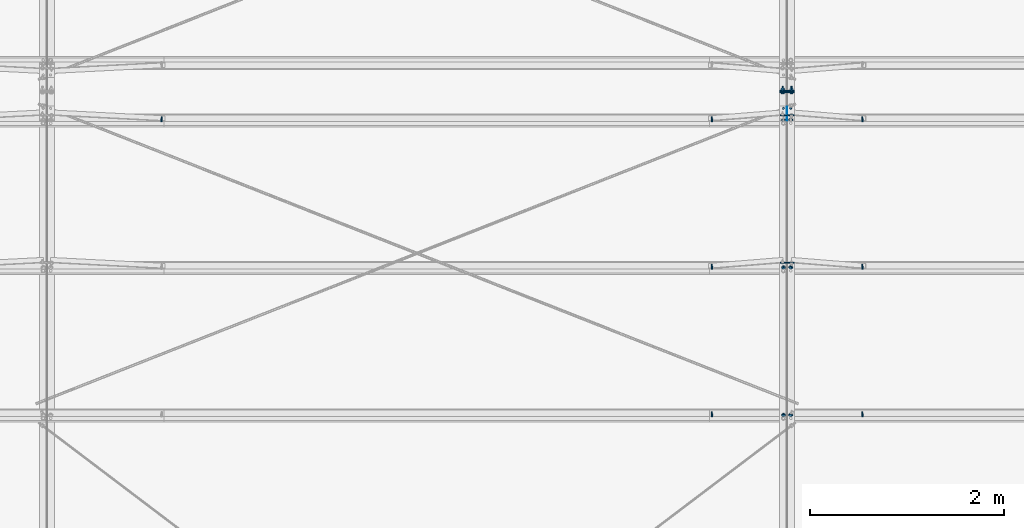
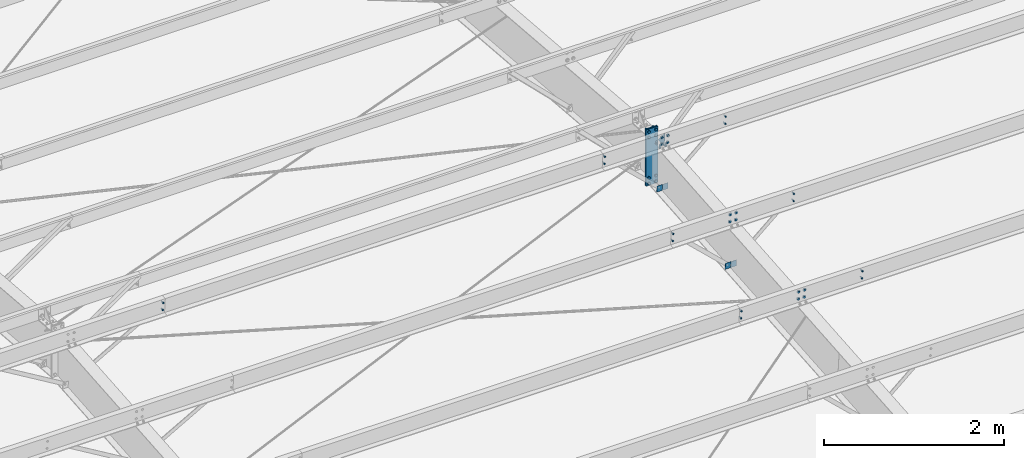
# One storey, part 72 of 185: 16 mechanical fasteners, 7 discrete accessories, 9 elements without a shape of their own.
"""IFC2X3 building model written with IfcOpenShell, lengths in millimetres."""

from ifc_helpers import new_model, si_unit, frame, origin_with_axes, origin_2d_with_axis, place, context, subcontext, project, spatial, polyline, rectangle, circle, outline, extrude, source, transform, mapped, material, type_object, element, aggregate, save


model = new_model("IFC2X3")

# Units and contexts
model_context = context("Model", 3, precision=1e-05, world=origin_with_axes())
body_context = subcontext(model_context, "Body", "Model", "MODEL_VIEW")
ifc_project = project(units=[si_unit("LENGTHUNIT", "METRE", prefix="MILLI"), si_unit("AREAUNIT", "SQUARE_METRE"), si_unit("VOLUMEUNIT", "CUBIC_METRE"), si_unit("MASSUNIT", "GRAM", prefix="KILO"), si_unit("TIMEUNIT", "SECOND"), si_unit("PLANEANGLEUNIT", "RADIAN"), si_unit("SOLIDANGLEUNIT", "STERADIAN"), si_unit("THERMODYNAMICTEMPERATUREUNIT", "DEGREE_CELSIUS"), si_unit("LUMINOUSINTENSITYUNIT", "LUMEN")], contexts=[model_context])

# Site, building, storey
site_placement = place(None, origin_with_axes())
site = spatial("IfcSite", under=ifc_project, at=site_placement, Name="Undefined", CompositionType="ELEMENT")
building_placement = place(site_placement, origin_with_axes())
building = spatial("IfcBuilding", under=site, at=building_placement, Name="Undefined", CompositionType="ELEMENT")
storey_placement = place(building_placement, origin_with_axes())
storey = spatial("IfcBuildingStorey", under=building, at=storey_placement, Name="Undefined", CompositionType="ELEMENT", Elevation=0.0)

# Assembly, mechanical fastener
assembly_1_placement = place(storey_placement, origin_with_axes())
assembly_1 = element("IfcElementAssembly", 1, at=assembly_1_placement, inside=storey, Name="Steel Assembly", AssemblyPlace="NOTDEFINED", PredefinedType="RIGID_FRAME")
ifc_material_1 = material(Name="Undefined")
discrete_accessory_type_1 = type_object("IfcDiscreteAccessoryType", Name="Bolt assembly")
shared_shape_1 = source(origin_with_axes(), body_context, "Body", "SweptSolid", [
    extrude(circle(Radius=7.14374971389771, at=origin_2d_with_axis()), frame((0.0, -1.59000001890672, 0.0), z_axis=(0.0, 1.0, 0.0), x_axis=(1.0, 0.0, 0.0)), (0.0, 0.0, 1.0), 3.3),
    extrude(circle(Radius=13.4937496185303, at=origin_2d_with_axis()), frame((0.0, -5.5587500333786, 0.0), z_axis=(0.0, 1.0, 0.0), x_axis=(1.0, 0.0, 0.0)), (0.0, 0.0, 1.0), 4.0),
    extrude(circle(Radius=22.2250003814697, at=origin_2d_with_axis()), frame((0.0, 1.5900000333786, 0.0), z_axis=(0.0, 1.0, 0.0), x_axis=(1.0, 0.0, 0.0)), (0.0, 0.0, 1.0), 7.9),
    extrude(outline(polyline([(12.8316099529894, 0.0), (6.4158049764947, 11.1125001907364), (-6.4158049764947, 11.1125001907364), (-12.8316099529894, 0.0), (-6.4158049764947, -11.1125001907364), (6.4158049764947, -11.1125001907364), (12.8316099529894, 0.0)])), frame((0.0, 9.5275000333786, 0.0), z_axis=(0.0, 1.0, 0.0), x_axis=(1.0, 0.0, 0.0)), (0.0, 0.0, 1.0), 12.3),
])
mechanical_fastener_1_placement = place(assembly_1_placement, frame((14897.1, 15702.4719876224, 7353.56325123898), z_axis=(1.0, 0.0, 0.0), x_axis=(0.0, 0.0830454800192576, -0.996545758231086)))
mechanical_fastener_1 = element("IfcMechanicalFastener", 2, at=mechanical_fastener_1_placement, type_object=discrete_accessory_type_1, material=ifc_material_1, Name="Bolt assembly", NominalDiameter=12.6999998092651, NominalLength=38.0999984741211, context=body_context, shape_type="MappedRepresentation", body=[
    mapped(shared_shape_1, transform((0.0, 0.0, 0.0))),
    mapped(shared_shape_1, transform((101.599998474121, 0.0, 0.0))),
])

assembly_2_placement = place(storey_placement, origin_with_axes())
assembly_2 = element("IfcElementAssembly", 3, at=assembly_2_placement, inside=storey, Name="Steel Assembly", AssemblyPlace="NOTDEFINED", PredefinedType="RIGID_FRAME")
mechanical_fastener_2_placement = place(assembly_2_placement, frame((14820.9, 15702.4719876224, 7353.56325123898), z_axis=(1.0, 0.0, 0.0), x_axis=(0.0, 0.0830454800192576, -0.996545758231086)))
mechanical_fastener_2 = element("IfcMechanicalFastener", 4, at=mechanical_fastener_2_placement, type_object=discrete_accessory_type_1, material=ifc_material_1, Name="Bolt assembly", NominalDiameter=12.6999998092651, NominalLength=38.0999984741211, context=body_context, shape_type="MappedRepresentation", body=[
    mapped(shared_shape_1, transform((0.0, 0.0, 0.0))),
    mapped(shared_shape_1, transform((101.599998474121, 0.0, 0.0))),
])

assembly_3_placement = place(storey_placement, origin_with_axes())
assembly_3 = element("IfcElementAssembly", 5, at=assembly_3_placement, inside=storey, Name="Steel Assembly", AssemblyPlace="NOTDEFINED", PredefinedType="RIGID_FRAME")
mechanical_fastener_3_placement = place(assembly_3_placement, frame((14897.1, 14183.7362520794, 7227.00193968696), z_axis=(1.0, 0.0, 0.0), x_axis=(0.0, 0.0830454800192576, -0.996545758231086)))
mechanical_fastener_3 = element("IfcMechanicalFastener", 6, at=mechanical_fastener_3_placement, type_object=discrete_accessory_type_1, material=ifc_material_1, Name="Bolt assembly", NominalDiameter=12.6999998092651, NominalLength=38.0999984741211, context=body_context, shape_type="MappedRepresentation", body=[
    mapped(shared_shape_1, transform((0.0, 0.0, 0.0))),
    mapped(shared_shape_1, transform((101.599998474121, 0.0, 0.0))),
])
aggregate(assembly_3, [mechanical_fastener_3])

assembly_4_placement = place(storey_placement, origin_with_axes())
assembly_4 = element("IfcElementAssembly", 7, at=assembly_4_placement, inside=storey, Name="Steel Assembly", AssemblyPlace="NOTDEFINED", PredefinedType="RIGID_FRAME")
mechanical_fastener_4_placement = place(assembly_4_placement, frame((14820.9, 14183.7362520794, 7227.00193968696), z_axis=(1.0, 0.0, 0.0), x_axis=(0.0, 0.0830454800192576, -0.996545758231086)))
mechanical_fastener_4 = element("IfcMechanicalFastener", 8, at=mechanical_fastener_4_placement, type_object=discrete_accessory_type_1, material=ifc_material_1, Name="Bolt assembly", NominalDiameter=12.6999998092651, NominalLength=38.0999984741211, context=body_context, shape_type="MappedRepresentation", body=[
    mapped(shared_shape_1, transform((0.0, 0.0, 0.0))),
    mapped(shared_shape_1, transform((101.599998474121, 0.0, 0.0))),
])

assembly_5_placement = place(storey_placement, origin_with_axes())
assembly_5 = element("IfcElementAssembly", 9, at=assembly_5_placement, inside=storey, Name="Steel Assembly", AssemblyPlace="NOTDEFINED", PredefinedType="RIGID_FRAME")
mechanical_fastener_5_placement = place(assembly_5_placement, frame((14897.1, 12665.0005165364, 7100.44062813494), z_axis=(1.0, 0.0, 0.0), x_axis=(0.0, 0.0830454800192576, -0.996545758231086)))
mechanical_fastener_5 = element("IfcMechanicalFastener", 10, at=mechanical_fastener_5_placement, type_object=discrete_accessory_type_1, material=ifc_material_1, Name="Bolt assembly", NominalDiameter=12.6999998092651, NominalLength=38.0999984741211, context=body_context, shape_type="MappedRepresentation", body=[
    mapped(shared_shape_1, transform((0.0, 0.0, 0.0))),
    mapped(shared_shape_1, transform((101.599998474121, 0.0, 0.0))),
])
aggregate(assembly_5, [mechanical_fastener_5])

assembly_6_placement = place(storey_placement, origin_with_axes())
assembly_6 = element("IfcElementAssembly", 11, at=assembly_6_placement, inside=storey, Name="Steel Assembly", AssemblyPlace="NOTDEFINED", PredefinedType="RIGID_FRAME")
mechanical_fastener_6_placement = place(assembly_6_placement, frame((14820.9, 12665.0005165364, 7100.44062813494), z_axis=(1.0, 0.0, 0.0), x_axis=(0.0, 0.0830454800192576, -0.996545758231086)))
mechanical_fastener_6 = element("IfcMechanicalFastener", 12, at=mechanical_fastener_6_placement, type_object=discrete_accessory_type_1, material=ifc_material_1, Name="Bolt assembly", NominalDiameter=12.6999998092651, NominalLength=38.0999984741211, context=body_context, shape_type="MappedRepresentation", body=[
    mapped(shared_shape_1, transform((0.0, 0.0, 0.0))),
    mapped(shared_shape_1, transform((101.599998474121, 0.0, 0.0))),
])

# Assembly, discrete accessory
assembly_7_placement = place(storey_placement, origin_with_axes())
assembly_7 = element("IfcElementAssembly", 13, at=assembly_7_placement, inside=storey, Name="Steel Assembly", AssemblyPlace="NOTDEFINED", PredefinedType="RIGID_FRAME")
ifc_material_2 = material(Name="STEEL/55")
discrete_accessory_type_2 = type_object("IfcDiscreteAccessoryType", Name="PLATE")
discrete_accessory_1_placement = place(assembly_7_placement, frame((14859.0, 15853.8182223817, 7219.61919678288), z_axis=(-1.0, 0.0, 0.0), x_axis=(0.0, -0.996545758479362, -0.0830454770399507)))
discrete_accessory_1 = element("IfcDiscreteAccessory", 14, at=discrete_accessory_1_placement, type_object=discrete_accessory_type_2, material=ifc_material_2, Name="PLATE", ObjectType="FL1/4\"X5 1/4\"", context=body_context, shape_type="SweptSolid", body=[
    extrude(outline(polyline([(0.0, 0.0), (133.350006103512, 3.70164343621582e-10), (133.350006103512, 190.500000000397), (0.0, 0.0)])), frame((0.0, 0.0, -3.175), z_axis=(0.0, 0.0, 1.0), x_axis=(1.0, 0.0, 0.0)), (0.0, 0.0, 1.0), 6.4),
])

# Assembly, discrete accessories
assembly_8_placement = place(storey_placement, origin_with_axes())
assembly_8 = element("IfcElementAssembly", 15, at=assembly_8_placement, inside=storey, Name="Steel Assembly", AssemblyPlace="NOTDEFINED", PredefinedType="RIGID_FRAME")
discrete_accessory_type_3 = type_object("IfcDiscreteAccessoryType", Name="FLANGE BRACE FLIP")
discrete_accessory_2_placement = place(assembly_8_placement, frame((14860.70815, 15761.151234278, 6628.84524774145), z_axis=(0.0, -0.0830454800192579, 0.996545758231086), x_axis=(1.0, 0.0, 0.0)))
discrete_accessory_2 = element("IfcDiscreteAccessory", 16, at=discrete_accessory_2_placement, type_object=discrete_accessory_type_3, material=ifc_material_2, Name="FLANGE BRACE FLIP", ObjectType="PL1/8\"X2 3/4\"", context=body_context, shape_type="SweptSolid", body=[
    extrude(rectangle(XDim=3.416, YDim=85.725, at=origin_2d_with_axis()), frame((69.8499999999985, 0.0, 0.0), z_axis=(-1.0, 0.0, 0.0), x_axis=(0.0, -1.0, 0.0)), (0.0, 0.0, 1.0), 69.9),
])
discrete_accessory_3_placement = place(assembly_8_placement, frame((14857.29185, 15761.151234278, 6628.84524774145), z_axis=(0.0, -0.0830454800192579, 0.996545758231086), x_axis=(-1.0, 0.0, 0.0)))
discrete_accessory_3 = element("IfcDiscreteAccessory", 17, at=discrete_accessory_3_placement, type_object=discrete_accessory_type_3, material=ifc_material_2, Name="FLANGE BRACE FLIP", ObjectType="PL1/8\"X2 3/4\"", context=body_context, shape_type="SweptSolid", body=[
    extrude(rectangle(XDim=3.416, YDim=85.725, at=origin_2d_with_axis()), frame((69.8499999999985, 0.0, 0.0), z_axis=(-1.0, 0.0, 0.0), x_axis=(0.0, -1.0, 0.0)), (0.0, 0.0, 1.0), 69.9),
])
discrete_accessory_4_placement = place(assembly_8_placement, frame((14860.70815, 14242.4154987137, 6502.28393644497), z_axis=(0.0, -0.0830454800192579, 0.996545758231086), x_axis=(1.0, 0.0, 0.0)))
discrete_accessory_4 = element("IfcDiscreteAccessory", 18, at=discrete_accessory_4_placement, type_object=discrete_accessory_type_3, material=ifc_material_2, Name="FLANGE BRACE FLIP", ObjectType="PL1/8\"X2 3/4\"", context=body_context, shape_type="SweptSolid", body=[
    extrude(rectangle(XDim=3.416, YDim=85.725, at=origin_2d_with_axis()), frame((69.8499999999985, 0.0, 0.0), z_axis=(-1.0, 0.0, 0.0), x_axis=(0.0, -1.0, 0.0)), (0.0, 0.0, 1.0), 69.9),
])
discrete_accessory_5_placement = place(assembly_8_placement, frame((14857.29185, 14242.4154987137, 6502.28393644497), z_axis=(0.0, -0.0830454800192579, 0.996545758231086), x_axis=(-1.0, 0.0, 0.0)))
discrete_accessory_5 = element("IfcDiscreteAccessory", 19, at=discrete_accessory_5_placement, type_object=discrete_accessory_type_3, material=ifc_material_2, Name="FLANGE BRACE FLIP", ObjectType="PL1/8\"X2 3/4\"", context=body_context, shape_type="SweptSolid", body=[
    extrude(rectangle(XDim=3.416, YDim=85.725, at=origin_2d_with_axis()), frame((69.8499999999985, 0.0, 0.0), z_axis=(-1.0, 0.0, 0.0), x_axis=(0.0, -1.0, 0.0)), (0.0, 0.0, 1.0), 69.9),
])

# Mechanical fastener
shared_shape_2 = source(origin_with_axes(), body_context, "Body", "SweptSolid", [
    extrude(circle(Radius=7.14374971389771, at=origin_2d_with_axis()), frame((0.0, -1.69000003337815, 0.0), z_axis=(0.0, 1.0, 0.0), x_axis=(1.0, 0.0, 0.0)), (0.0, 0.0, 1.0), 3.3),
    extrude(circle(Radius=7.14374971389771, at=origin_2d_with_axis()), frame((0.0, -1.4900000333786, 0.0), z_axis=(0.0, 1.0, 0.0), x_axis=(1.0, 0.0, 0.0)), (0.0, 0.0, 1.0), 3.2),
    extrude(outline(polyline([(10.9985221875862, 0.0), (5.4992610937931, 9.52499961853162), (-5.4992610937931, 9.52499961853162), (-10.9985221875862, 0.0), (-5.4992610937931, -9.52499961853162), (5.4992610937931, -9.52499961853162), (10.9985221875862, 0.0)])), frame((0.0, -11.1149996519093, 0.0), z_axis=(0.0, 1.0, 0.0), x_axis=(1.0, 0.0, 0.0)), (0.0, 0.0, 1.0), 9.5),
    extrude(circle(Radius=6.34999990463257, at=origin_2d_with_axis()), frame((0.0, -1.59000001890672, 0.0), z_axis=(0.0, 1.0, 0.0), x_axis=(1.0, 0.0, 0.0)), (0.0, 0.0, 1.0), 38.1),
    extrude(outline(polyline([(12.8316099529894, 0.0), (6.4158049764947, 11.1125001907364), (-6.4158049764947, 11.1125001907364), (-12.8316099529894, 0.0), (-6.4158049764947, -11.1125001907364), (6.4158049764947, -11.1125001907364), (12.8316099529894, 0.0)])), frame((0.0, 1.5900000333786, 0.0), z_axis=(0.0, 1.0, 0.0), x_axis=(1.0, 0.0, 0.0)), (0.0, 0.0, 1.0), 12.3),
])
mechanical_fastener_7_placement = place(assembly_1_placement, frame((8420.1, 15702.4719876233, 7353.56325125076), z_axis=(1.0, 0.0, 0.0), x_axis=(0.0, 0.0830454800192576, -0.996545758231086)))
mechanical_fastener_7 = element("IfcMechanicalFastener", 20, at=mechanical_fastener_7_placement, type_object=discrete_accessory_type_1, material=ifc_material_1, Name="Bolt assembly", NominalDiameter=12.6999998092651, NominalLength=38.0999984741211, context=body_context, shape_type="MappedRepresentation", body=[
    mapped(shared_shape_2, transform((0.0, 0.0, 0.0))),
    mapped(shared_shape_2, transform((101.599998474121, 0.0, 0.0))),
])

aggregate(assembly_1, [mechanical_fastener_7, mechanical_fastener_1])

shared_shape_3 = source(origin_with_axes(), body_context, "Body", "SweptSolid", [
    extrude(circle(Radius=7.14374971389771, at=origin_2d_with_axis()), frame((0.0, -0.0238014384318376, 0.0), z_axis=(0.0, 1.0, 0.0), x_axis=(1.0, 0.0, 0.0)), (0.0, 0.0, 1.0), 8.0),
    extrude(circle(Radius=7.14374971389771, at=origin_2d_with_axis()), frame((0.0, -6.24999999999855, 0.0), z_axis=(0.0, 1.0, 0.0), x_axis=(1.0, 0.0, 0.0)), (0.0, 0.0, 1.0), 6.4),
    extrude(outline(polyline([(10.9985221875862, 0.0), (5.4992610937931, 9.52499961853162), (-5.4992610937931, 9.52499961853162), (-10.9985221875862, 0.0), (-5.4992610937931, -9.52499961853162), (5.4992610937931, -9.52499961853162), (10.9985221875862, 0.0)])), frame((0.0, -15.8750000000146, 0.0), z_axis=(0.0, 1.0, 0.0), x_axis=(1.0, 0.0, 0.0)), (0.0, 0.0, 1.0), 9.5),
    extrude(circle(Radius=6.34999990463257, at=origin_2d_with_axis()), frame((0.0, -6.34999953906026, 0.0), z_axis=(0.0, 1.0, 0.0), x_axis=(1.0, 0.0, 0.0)), (0.0, 0.0, 1.0), 38.1),
    extrude(outline(polyline([(12.8316099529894, 0.0), (6.4158049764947, 11.1125001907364), (-6.4158049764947, 11.1125001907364), (-12.8316099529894, 0.0), (-6.4158049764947, -11.1125001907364), (6.4158049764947, -11.1125001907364), (12.8316099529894, 0.0)])), frame((0.0, 7.95019856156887, 0.0), z_axis=(0.0, 1.0, 0.0), x_axis=(1.0, 0.0, 0.0)), (0.0, 0.0, 1.0), 12.3),
])
mechanical_fastener_8_placement = place(assembly_7_placement, frame((14859.0, 15753.0965121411, 7204.85371046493), z_axis=(-1.0, 0.0, 0.0), x_axis=(0.0, 0.996545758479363, 0.0830454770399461)))
mechanical_fastener_8 = element("IfcMechanicalFastener", 21, at=mechanical_fastener_8_placement, type_object=discrete_accessory_type_1, material=ifc_material_1, Name="Bolt assembly", NominalDiameter=12.6999998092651, NominalLength=38.0999984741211, context=body_context, shape_type="MappedRepresentation", body=[
    mapped(shared_shape_3, transform((0.0, 0.0, -38.0999984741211))),
    mapped(shared_shape_3, transform((76.1999969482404, -1.38243194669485e-10, -38.0999984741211))),
    mapped(shared_shape_3, transform((0.0, 0.0, 38.0999984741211))),
    mapped(shared_shape_3, transform((76.1999969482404, -1.38243194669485e-10, 38.0999984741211))),
])

aggregate(assembly_7, [mechanical_fastener_8, discrete_accessory_1])

shared_shape_4 = source(origin_with_axes(), body_context, "Body", "SweptSolid", [
    extrude(circle(Radius=7.14374971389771, at=origin_2d_with_axis()), frame((0.0, -1.4900000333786, 0.0), z_axis=(0.0, 1.0, 0.0), x_axis=(1.0, 0.0, 0.0)), (0.0, 0.0, 1.0), 3.2),
    extrude(circle(Radius=7.14374971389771, at=origin_2d_with_axis()), frame((0.0, -1.4900000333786, 0.0), z_axis=(0.0, 1.0, 0.0), x_axis=(1.0, 0.0, 0.0)), (0.0, 0.0, 1.0), 3.2),
    extrude(outline(polyline([(10.9985221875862, 0.0), (5.4992610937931, 9.52499961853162), (-5.4992610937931, 9.52499961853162), (-10.9985221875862, 0.0), (-5.4992610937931, -9.52499961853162), (5.4992610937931, -9.52499961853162), (10.9985221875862, 0.0)])), frame((0.0, -11.1149996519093, 0.0), z_axis=(0.0, 1.0, 0.0), x_axis=(1.0, 0.0, 0.0)), (0.0, 0.0, 1.0), 9.5),
    extrude(circle(Radius=6.34999990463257, at=origin_2d_with_axis()), frame((0.0, -1.59000001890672, 0.0), z_axis=(0.0, 1.0, 0.0), x_axis=(1.0, 0.0, 0.0)), (0.0, 0.0, 1.0), 38.1),
    extrude(outline(polyline([(12.8316099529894, 0.0), (6.4158049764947, 11.1125001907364), (-6.4158049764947, 11.1125001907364), (-12.8316099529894, 0.0), (-6.4158049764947, -11.1125001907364), (6.4158049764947, -11.1125001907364), (12.8316099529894, 0.0)])), frame((0.0, 1.5900000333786, 0.0), z_axis=(0.0, 1.0, 0.0), x_axis=(1.0, 0.0, 0.0)), (0.0, 0.0, 1.0), 12.3),
])
mechanical_fastener_9_placement = place(assembly_2_placement, frame((15633.7, 15702.47198762, 7353.56325123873), z_axis=(1.0, 0.0, 0.0), x_axis=(0.0, 0.0830454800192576, -0.996545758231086)))
mechanical_fastener_9 = element("IfcMechanicalFastener", 22, at=mechanical_fastener_9_placement, type_object=discrete_accessory_type_1, material=ifc_material_1, Name="Bolt assembly", NominalDiameter=12.6999998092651, NominalLength=38.0999984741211, context=body_context, shape_type="MappedRepresentation", body=[
    mapped(shared_shape_4, transform((0.0, 0.0, 0.0))),
    mapped(shared_shape_4, transform((101.599998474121, 0.0, 0.0))),
])

mechanical_fastener_10_placement = place(assembly_2_placement, frame((14084.3, 15702.47198762, 7353.56325123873), z_axis=(1.0, 0.0, 0.0), x_axis=(0.0, 0.0830454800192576, -0.996545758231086)))
mechanical_fastener_10 = element("IfcMechanicalFastener", 23, at=mechanical_fastener_10_placement, type_object=discrete_accessory_type_1, material=ifc_material_1, Name="Bolt assembly", NominalDiameter=12.6999998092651, NominalLength=38.0999984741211, context=body_context, shape_type="MappedRepresentation", body=[
    mapped(shared_shape_4, transform((0.0, 0.0, 0.0))),
    mapped(shared_shape_4, transform((101.599998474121, 0.0, 0.0))),
])

aggregate(assembly_2, [mechanical_fastener_2, mechanical_fastener_9, mechanical_fastener_10])

mechanical_fastener_11_placement = place(assembly_4_placement, frame((15633.7, 14183.7362520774, 7227.00193968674), z_axis=(1.0, 0.0, 0.0), x_axis=(0.0, 0.0830454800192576, -0.996545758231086)))
mechanical_fastener_11 = element("IfcMechanicalFastener", 24, at=mechanical_fastener_11_placement, type_object=discrete_accessory_type_1, material=ifc_material_1, Name="Bolt assembly", NominalDiameter=12.6999998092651, NominalLength=38.0999984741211, context=body_context, shape_type="MappedRepresentation", body=[
    mapped(shared_shape_4, transform((0.0, 0.0, 0.0))),
    mapped(shared_shape_4, transform((101.599998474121, 0.0, 0.0))),
])

mechanical_fastener_12_placement = place(assembly_4_placement, frame((14084.3, 14183.7362520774, 7227.00193968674), z_axis=(1.0, 0.0, 0.0), x_axis=(0.0, 0.0830454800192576, -0.996545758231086)))
mechanical_fastener_12 = element("IfcMechanicalFastener", 25, at=mechanical_fastener_12_placement, type_object=discrete_accessory_type_1, material=ifc_material_1, Name="Bolt assembly", NominalDiameter=12.6999998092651, NominalLength=38.0999984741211, context=body_context, shape_type="MappedRepresentation", body=[
    mapped(shared_shape_4, transform((0.0, 0.0, 0.0))),
    mapped(shared_shape_4, transform((101.599998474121, 0.0, 0.0))),
])

aggregate(assembly_4, [mechanical_fastener_4, mechanical_fastener_11, mechanical_fastener_12])

mechanical_fastener_13_placement = place(assembly_6_placement, frame((15633.7, 12665.0005165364, 7100.44062813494), z_axis=(1.0, 0.0, 0.0), x_axis=(0.0, 0.0830454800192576, -0.996545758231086)))
mechanical_fastener_13 = element("IfcMechanicalFastener", 26, at=mechanical_fastener_13_placement, type_object=discrete_accessory_type_1, material=ifc_material_1, Name="Bolt assembly", NominalDiameter=12.6999998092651, NominalLength=38.0999984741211, context=body_context, shape_type="MappedRepresentation", body=[
    mapped(shared_shape_4, transform((0.0, 0.0, 0.0))),
    mapped(shared_shape_4, transform((101.599998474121, 0.0, 0.0))),
])

mechanical_fastener_14_placement = place(assembly_6_placement, frame((14084.3, 12665.0005165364, 7100.44062813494), z_axis=(1.0, 0.0, 0.0), x_axis=(0.0, 0.0830454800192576, -0.996545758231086)))
mechanical_fastener_14 = element("IfcMechanicalFastener", 27, at=mechanical_fastener_14_placement, type_object=discrete_accessory_type_1, material=ifc_material_1, Name="Bolt assembly", NominalDiameter=12.6999998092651, NominalLength=38.0999984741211, context=body_context, shape_type="MappedRepresentation", body=[
    mapped(shared_shape_4, transform((0.0, 0.0, 0.0))),
    mapped(shared_shape_4, transform((101.599998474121, 0.0, 0.0))),
])

aggregate(assembly_6, [mechanical_fastener_6, mechanical_fastener_13, mechanical_fastener_14])

shared_shape_5 = source(origin_with_axes(), body_context, "Body", "SweptSolid", [
    extrude(circle(Radius=10.3187494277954, at=origin_2d_with_axis()), frame((0.0, -0.1, 0.0), z_axis=(0.0, 1.0, 0.0), x_axis=(1.0, 0.0, 0.0)), (0.0, 0.0, 1.0), 12.8),
    extrude(circle(Radius=10.3187494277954, at=origin_2d_with_axis()), frame((0.0, -12.5999999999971, 0.0), z_axis=(0.0, 1.0, 0.0), x_axis=(1.0, 0.0, 0.0)), (0.0, 0.0, 1.0), 12.7),
    extrude(outline(polyline([(18.3308710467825, 0.0), (9.16543552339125, 15.8750000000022), (-9.16543552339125, 15.8750000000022), (-18.3308710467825, 0.0), (-9.16543552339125, -15.8750000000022), (9.16543552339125, -15.8750000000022), (18.3308710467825, 0.0)])), frame((0.0, -24.6062499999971, 0.0), z_axis=(0.0, 1.0, 0.0), x_axis=(1.0, 0.0, 0.0)), (0.0, 0.0, 1.0), 11.9),
    extrude(circle(Radius=9.52499961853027, at=origin_2d_with_axis()), frame((0.0, -12.6999999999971, 0.0), z_axis=(0.0, 1.0, 0.0), x_axis=(1.0, 0.0, 0.0)), (0.0, 0.0, 1.0), 69.8),
    extrude(circle(Radius=22.2250003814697, at=origin_2d_with_axis()), frame((0.0, 12.6999999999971, 0.0), z_axis=(0.0, 1.0, 0.0), x_axis=(1.0, 0.0, 0.0)), (0.0, 0.0, 1.0), 7.9),
    extrude(outline(polyline([(18.3308710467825, 0.0), (9.16543552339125, 15.8750000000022), (-9.16543552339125, 15.8750000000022), (-18.3308710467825, 0.0), (-9.16543552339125, -15.8750000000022), (9.16543552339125, -15.8750000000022), (18.3308710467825, 0.0)])), frame((0.0, 20.6374999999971, 0.0), z_axis=(0.0, 1.0, 0.0), x_axis=(1.0, 0.0, 0.0)), (0.0, 0.0, 1.0), 19.0),
])
mechanical_fastener_15_placement = place(assembly_8_placement, frame((14859.0, 16001.9999999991, 6561.9804128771), z_axis=(-1.0, 0.0, 0.0), x_axis=(0.0, 0.0, 1.0)))
mechanical_fastener_15 = element("IfcMechanicalFastener", 28, at=mechanical_fastener_15_placement, type_object=discrete_accessory_type_1, material=ifc_material_1, Name="Bolt assembly", NominalDiameter=19.0499992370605, NominalLength=69.8499984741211, context=body_context, shape_type="MappedRepresentation", body=[
    mapped(shared_shape_5, transform((0.0, 0.0, -44.4500007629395))),
    mapped(shared_shape_5, transform((76.1999969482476, 0.0, -44.4500007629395))),
    mapped(shared_shape_5, transform((0.0, 0.0, 44.4500007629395))),
    mapped(shared_shape_5, transform((76.1999969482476, 0.0, 44.4500007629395))),
])

mechanical_fastener_16_placement = place(assembly_8_placement, frame((14859.0, 16001.9999999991, 7262.06791218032), z_axis=(1.0, 0.0, 0.0), x_axis=(0.0, 0.0, -1.0)))
mechanical_fastener_16 = element("IfcMechanicalFastener", 29, at=mechanical_fastener_16_placement, type_object=discrete_accessory_type_1, material=ifc_material_1, Name="Bolt assembly", NominalDiameter=19.0499992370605, NominalLength=69.8499984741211, context=body_context, shape_type="MappedRepresentation", body=[
    mapped(shared_shape_5, transform((0.0, 0.0, -44.4500007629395))),
    mapped(shared_shape_5, transform((76.1999969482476, 0.0, -44.4500007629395))),
    mapped(shared_shape_5, transform((0.0, 0.0, 44.4500007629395))),
    mapped(shared_shape_5, transform((76.1999969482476, 0.0, 44.4500007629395))),
])

# Assembly, discrete accessory
assembly_9_placement = place(storey_placement, origin_with_axes())
assembly_9 = element("IfcElementAssembly", 30, at=assembly_9_placement, inside=storey, Name="Steel Assembly", AssemblyPlace="NOTDEFINED", PredefinedType="RIGID_FRAME")
discrete_accessory_type_4 = type_object("IfcDiscreteAccessoryType", Name="Rafter Ridge Plate")
discrete_accessory_6_placement = place(assembly_9_placement, frame((14859.0, 16008.3500000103, 7293.81790912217), z_axis=(-1.0, 0.0, 0.0), x_axis=(0.0, 0.0, -1.0)))
discrete_accessory_6 = element("IfcDiscreteAccessory", 31, at=discrete_accessory_6_placement, type_object=discrete_accessory_type_4, material=ifc_material_2, Name="Rafter Ridge Plate", ObjectType="FL1/2\"X6\"", context=body_context, shape_type="SweptSolid", body=[
    extrude(rectangle(XDim=12.7, YDim=152.4, at=origin_2d_with_axis()), frame((763.587493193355, 0.0, 0.0), z_axis=(-1.0, 0.0, 0.0), x_axis=(0.0, -1.0, 0.0)), (0.0, 0.0, 1.0), 763.6),
])
aggregate(assembly_9, [discrete_accessory_6])

# Discrete accessory
discrete_accessory_7_placement = place(assembly_8_placement, frame((14859.0, 15995.6499999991, 7293.81790912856), z_axis=(1.0, 0.0, 0.0), x_axis=(0.0, 0.0, -1.0)))
discrete_accessory_7 = element("IfcDiscreteAccessory", 32, at=discrete_accessory_7_placement, type_object=discrete_accessory_type_4, material=ifc_material_2, Name="Rafter Ridge Plate", ObjectType="FL1/2\"X6\"", context=body_context, shape_type="SweptSolid", body=[
    extrude(rectangle(XDim=12.7, YDim=152.4, at=origin_2d_with_axis()), frame((763.587493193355, 0.0, 0.0), z_axis=(-1.0, 0.0, 0.0), x_axis=(0.0, -1.0, 0.0)), (0.0, 0.0, 1.0), 763.6),
])

aggregate(assembly_8, [discrete_accessory_2, discrete_accessory_3, discrete_accessory_4, discrete_accessory_5, mechanical_fastener_15, mechanical_fastener_16, discrete_accessory_7])

save(model, "model.ifc")
